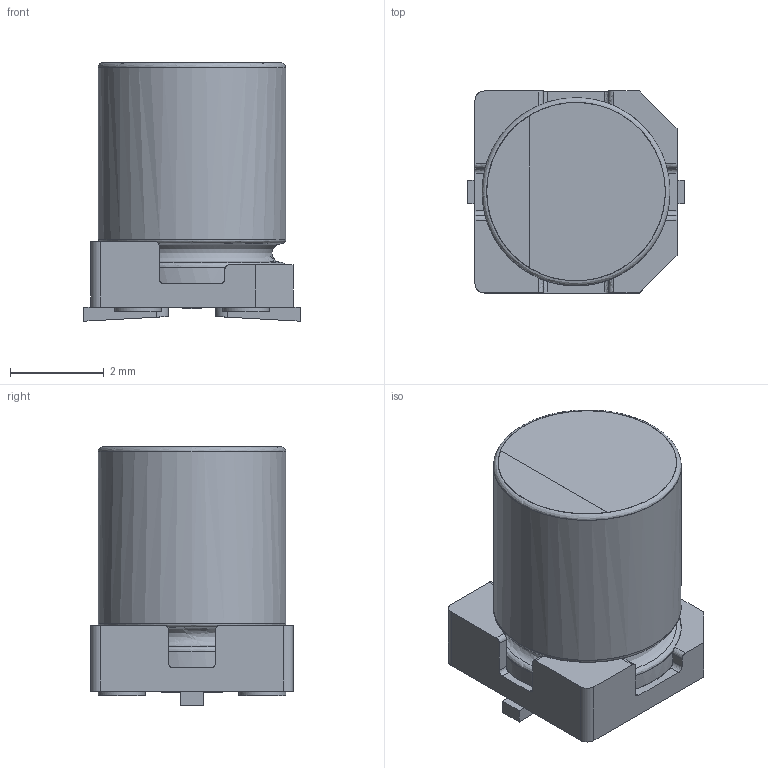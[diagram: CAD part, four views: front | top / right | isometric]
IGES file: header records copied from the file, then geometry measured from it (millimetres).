
Start section: JAMA-IS VERSION  1.0
Bounding box: 4.6 x 4.3 x 5.5 mm (x, y, z)
Surface area: 155.6 mm2 (no closed solid volume)
Topology: 0 solids, 0 shells, 81 faces, 922 edges, 904 vertices
Faces by surface type: bspline 81
